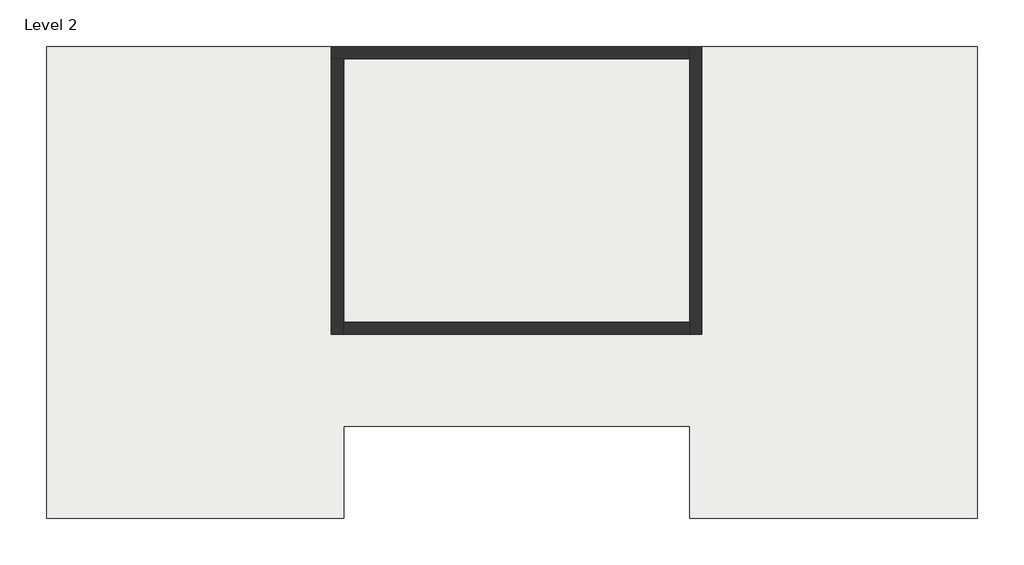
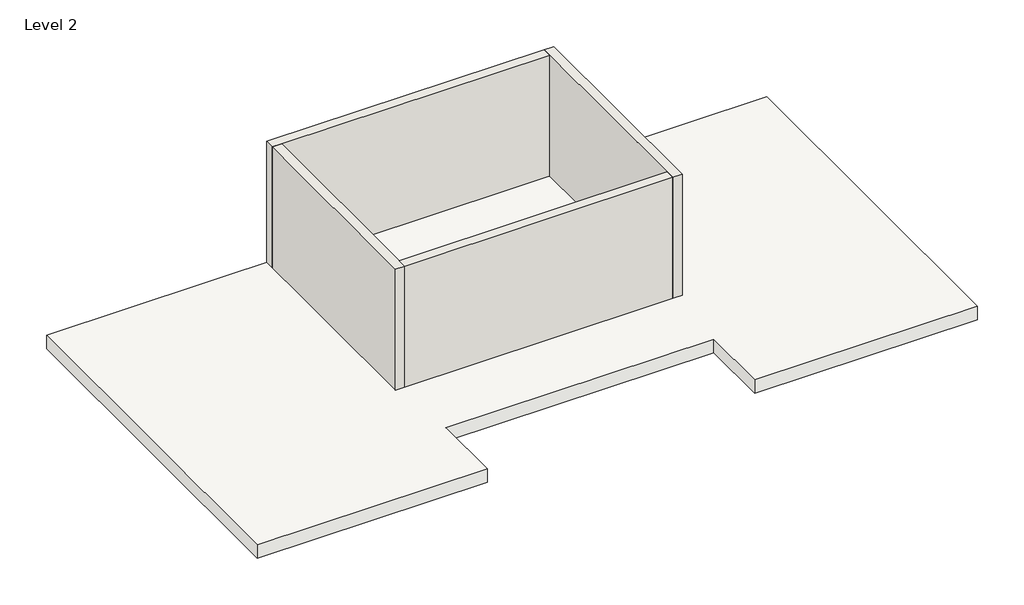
# One storey: 4 walls, 1 roof.
"""IFC4 building model written with IfcOpenShell, lengths in millimetres."""

import ifcopenshell
import ifcopenshell.guid

model = None  # the IFC model being written
_history = None  # IfcOwnerHistory: only IFC2X3 demands one
_inside = {}  # id of a spatial element -> (the spatial element, [elements in it])
_under = {}  # id of a project, library or spatial element -> (it, [spatial elements below it])
_declared = {}  # id of a project -> (the project, [libraries it declares])
_typed = {}  # id of a type object -> (the type object, [elements of that type])
_made_of = {}  # id of a material, layer set ... -> (it, [elements and type objects made of it])


def new_model(schema):
    """Start an empty IFC model of exactly this schema.

    Asked for "IFC4X3", IfcOpenShell would pick the latest addendum, in which some entities
    have other attributes; the version numbers below select the first issue.
    IFC2X3 requires an IfcOwnerHistory on every rooted entity: one is made here for all.
    """
    global model, _history
    if schema == "IFC4X3":
        model = ifcopenshell.file(schema_version=(4, 3, 0, 0))
    else:
        model = ifcopenshell.file(schema=schema)
    _inside.clear()
    _under.clear()
    _declared.clear()
    _typed.clear()
    _made_of.clear()
    _history = None
    if model.schema == "IFC2X3":
        org = make("IfcOrganization", Name="unknown")
        user = make(
            "IfcPersonAndOrganization",
            ThePerson=make("IfcPerson", FamilyName="unknown"),
            TheOrganization=org,
        )
        app = make(
            "IfcApplication",
            ApplicationDeveloper=org,
            Version="unknown",
            ApplicationFullName="unknown",
            ApplicationIdentifier="unknown",
        )
        _history = make(
            "IfcOwnerHistory",
            OwningUser=user,
            OwningApplication=app,
            ChangeAction="ADDED",
            CreationDate=0,
        )
    return model


def make(cls, **values):
    """One entity of the class cls with the attributes given. An attribute that is None is left unset."""
    return model.create_entity(
        cls, **{name: value for name, value in values.items() if value is not None}
    )


def rooted(cls, **values):
    """An entity with a GlobalId (a new one), such as an element, a storey or a relation."""
    return make(cls, GlobalId=ifcopenshell.guid.new(), OwnerHistory=_history, **values)


def si_unit(unit_type, name, prefix=None):
    """IfcSIUnit, for example si_unit("LENGTHUNIT", "METRE", prefix="MILLI")."""
    return make("IfcSIUnit", UnitType=unit_type, Prefix=prefix, Name=name)


def assignment(units):
    """IfcUnitAssignment: the units of a project."""
    return None if units is None else make("IfcUnitAssignment", Units=units)


def point(xyz):
    """IfcCartesianPoint."""
    return None if xyz is None else make("IfcCartesianPoint", Coordinates=xyz)


def direction(xyz):
    """IfcDirection."""
    return None if xyz is None else make("IfcDirection", DirectionRatios=xyz)


def frame(location, z_axis=None, x_axis=None):
    """IfcAxis2Placement3D, a coordinate frame: its origin and axes. An axis left out is left unset."""
    return make(
        "IfcAxis2Placement3D",
        Location=point(location),
        Axis=direction(z_axis),
        RefDirection=direction(x_axis),
    )


def origin():
    """The frame at (0, 0, 0) with its axes left unset."""
    return frame((0.0, 0.0, 0.0))


def place(relative_to, where):
    """IfcLocalPlacement: puts the frame where relative to a parent placement (None: the world)."""
    return make(
        "IfcLocalPlacement", PlacementRelTo=relative_to, RelativePlacement=where
    )


def context(
    kind, dimensions, precision=None, world=None, true_north=None, identifier=None
):
    """IfcGeometricRepresentationContext, for example the 3D "Model" context."""
    return make(
        "IfcGeometricRepresentationContext",
        ContextIdentifier=identifier,
        ContextType=kind,
        CoordinateSpaceDimension=dimensions,
        Precision=precision,
        WorldCoordinateSystem=world,
        TrueNorth=true_north,
    )


def project(units=None, contexts=None):
    """IfcProject with its units and contexts."""
    return rooted(
        "IfcProject",
        Name="project",
        RepresentationContexts=contexts,
        UnitsInContext=assignment(units),
    )


def spatial(cls, under=None, at=None, **own):
    """A site, building, storey or space (cls), placed at a placement, below another one or the project."""
    s = rooted(cls, ObjectPlacement=at, **own)
    if under is not None:
        _under.setdefault(under.id(), (under, []))[1].append(s)
    return s


def polyline(points):
    """IfcPolyline through the points."""
    return make("IfcPolyline", Points=[point(p) for p in points])


def outline(outer, holes=None, kind="AREA"):
    """IfcArbitraryClosedProfileDef: a profile drawn as a closed curve; with holes, ...WithVoids."""
    if holes is None:
        return make("IfcArbitraryClosedProfileDef", ProfileType=kind, OuterCurve=outer)
    return make(
        "IfcArbitraryProfileDefWithVoids",
        ProfileType=kind,
        OuterCurve=outer,
        InnerCurves=holes,
    )


def extrude(swept, where, along, depth):
    """IfcExtrudedAreaSolid: the profile swept, set in the frame where, extruded along a direction by depth."""
    return make(
        "IfcExtrudedAreaSolid",
        SweptArea=swept,
        Position=where,
        ExtrudedDirection=direction(along),
        Depth=depth,
    )


def faces_of(points, faces, orient=None, outer=None):
    """IfcFace entities. A face is a list of loops; a loop is a list of indices into points, from 0.

    orient and outer hold one flag for each loop. By default every Orientation is true, the
    first loop of a face is its IfcFaceOuterBound and the others are IfcFaceBound.
    """
    made = []
    for i, loops in enumerate(faces):
        bounds = []
        for j, loop in enumerate(loops):
            is_outer = j == 0 if outer is None else outer[i][j]
            bounds.append(
                make(
                    "IfcFaceOuterBound" if is_outer else "IfcFaceBound",
                    Bound=make("IfcPolyLoop", Polygon=[points[k] for k in loop]),
                    Orientation=True if orient is None else orient[i][j],
                )
            )
        made.append(make("IfcFace", Bounds=bounds))
    return made


def faceted_brep(points, faces, orient=None, outer=None, voids=None):
    """IfcFacetedBrep: a solid bounded by flat faces; with voids (closed shells), ...WithVoids."""
    shared = [point(p) for p in points]
    hull = make("IfcClosedShell", CfsFaces=faces_of(shared, faces, orient, outer))
    if voids is None:
        return make("IfcFacetedBrep", Outer=hull)
    return make(
        "IfcFacetedBrepWithVoids",
        Outer=hull,
        Voids=[
            make(cls, CfsFaces=faces_of(shared, fs, o, b)) for cls, fs, o, b in voids
        ],
    )


def shape(context_of_items, identifier, shape_type, items):
    """IfcShapeRepresentation: the items that make up one representation, for example the "Body"."""
    return make(
        "IfcShapeRepresentation",
        ContextOfItems=context_of_items,
        RepresentationIdentifier=identifier,
        RepresentationType=shape_type,
        Items=items,
    )


def made_of(thing, what):
    """Note that an element or type object is made of a material, layer set ...; save() writes the relation."""
    if what is not None:
        _made_of.setdefault(what.id(), (what, []))[1].append(thing)
    return thing


def element(
    cls,
    number,
    at=None,
    inside=None,
    cuts=None,
    type_object=None,
    material=None,
    context=None,
    identifier="Body",
    shape_type=None,
    held_by="IfcProductDefinitionShape",
    body=None,
    shapes=None,
    **own,
):
    """One element of the class cls, such as IfcWall. Its Tag is "e" and its number.

    at: its placement. inside: the storey or other place that contains it. cuts: it is an
    opening in that element (IfcRelVoidsElement). A single representation is given by context,
    identifier, shape_type and body (its items); several are given by shapes. held_by: the class
    of the entity that holds the representations. save() writes the other relations.
    """
    e = rooted(cls, Tag="e%d" % number, ObjectPlacement=at, **own)
    if body is not None:
        shapes = [shape(context, identifier, shape_type, body)]
    if shapes is not None:
        e.Representation = make(held_by, Representations=shapes)
    if inside is not None:
        _inside.setdefault(inside.id(), (inside, []))[1].append(e)
    if cuts is not None:
        rooted(
            "IfcRelVoidsElement", RelatingBuildingElement=cuts, RelatedOpeningElement=e
        )
    if type_object is not None:
        _typed.setdefault(type_object.id(), (type_object, []))[1].append(e)
    return made_of(e, material)


def aggregate(whole, parts):
    """IfcRelAggregates: a whole, such as a stair, and the parts it consists of."""
    return rooted("IfcRelAggregates", RelatingObject=whole, RelatedObjects=parts)


def save(model, path):
    """Write the relations noted so far, then the file.

    IfcRelAggregates (storeys below a building ...), IfcRelContainedInSpatialStructure (elements
    in a storey), IfcRelDefinesByType, IfcRelAssociatesMaterial and IfcRelDeclares: one each for
    every whole, place, type object, material and project.
    """
    for whole, parts in _under.values():
        aggregate(whole, parts)
    for where, things in _inside.values():
        rooted(
            "IfcRelContainedInSpatialStructure",
            RelatedElements=things,
            RelatingStructure=where,
        )
    for kind, things in _typed.values():
        rooted("IfcRelDefinesByType", RelatedObjects=things, RelatingType=kind)
    for what, things in _made_of.values():
        rooted("IfcRelAssociatesMaterial", RelatedObjects=things, RelatingMaterial=what)
    for by, libraries in _declared.values():
        rooted("IfcRelDeclares", RelatingContext=by, RelatedDefinitions=libraries)
    model.write(path)


model = new_model("IFC4")

# Units and contexts
model_context = context("Model", 3, world=origin())
ifc_project = project(units=[si_unit("LENGTHUNIT", "METRE", prefix="MILLI")], contexts=[model_context])

# Site, building, storey
site = spatial("IfcSite", under=ifc_project)
building = spatial("IfcBuilding", under=site)
storey = spatial("IfcBuildingStorey", under=building, Name="Level 2", Elevation=3048.0)

# Roof
placement = place(None, origin())
element("IfcRoof", 1, ObjectType="Generic - 12\"", at=placement, inside=storey, context=model_context, shape_type="SweptSolid", body=[
    extrude(outline(polyline([(-11961.1815431, 2122.9542041), (-11961.1815431, 9946.1542041), (3482.0184569, 9946.1542041), (3482.0184569, 2122.9542041), (-1293.1815431, 2122.9542041), (-1293.1815431, 3646.9542041), (-7033.5815431, 3646.9542041), (-7033.5815431, 2122.9542041), (-11961.1815431, 2122.9542041)])), frame((0.0, 0.0, 3048.0), z_axis=(0.0, 0.0, 1.0), x_axis=(1.0, 0.0, 0.0)), (0.0, 0.0, 1.0), 304.8),
])

# Walls
element("IfcWall", 2, ObjectType="Generic - 8\"", at=placement, inside=storey, context=model_context, shape_type="Brep", body=[
    faceted_brep([(-1089.9815431, 5170.9542041, 3352.8), (-1089.9815431, 9946.1542041, 3352.8), (-1089.9815431, 9946.1542041, 6096.0), (-1089.9815431, 5170.9542041, 6096.0), (-1293.1815431, 5170.9542041, 3352.8), (-1293.1815431, 5170.9542041, 6096.0), (-1293.1815431, 5374.1542041, 6096.0), (-1293.1815431, 9742.9542041, 6096.0), (-1293.1815431, 9946.1542041, 6096.0), (-1293.1815431, 9946.1542041, 3352.8), (-1293.1815431, 9742.9542041, 3352.8), (-1293.1815431, 5374.1542041, 3352.8)], [[[0, 1, 2, 3]], [[4, 5, 6, 7, 8, 9, 10, 11]], [[1, 0, 4, 11, 10, 9]], [[2, 1, 9, 8]], [[0, 3, 5, 4]], [[3, 2, 8, 7, 6, 5]]]),
])
element("IfcWall", 3, ObjectType="Generic - 8\"", at=placement, inside=storey, context=model_context, shape_type="Brep", body=[
    faceted_brep([(-1293.1815431, 9946.1542041, 3352.8), (-7236.7815431, 9946.1542041, 3352.8), (-7236.7815431, 9946.1542041, 6096.0), (-1293.1815431, 9946.1542041, 6096.0), (-1293.1815431, 9742.9542041, 3352.8), (-1293.1815431, 9742.9542041, 6096.0), (-7033.5815431, 9742.9542041, 6096.0), (-7236.7815431, 9742.9542041, 6096.0), (-7236.7815431, 9742.9542041, 3352.8), (-7033.5815431, 9742.9542041, 3352.8)], [[[0, 1, 2, 3]], [[4, 5, 6, 7, 8, 9]], [[1, 0, 4, 9, 8]], [[2, 1, 8, 7]], [[0, 3, 5, 4]], [[3, 2, 7, 6, 5]]]),
])
element("IfcWall", 4, ObjectType="Generic - 8\"", at=placement, inside=storey, context=model_context, shape_type="Brep", body=[
    faceted_brep([(-7236.7815431, 9742.9542041, 3352.8), (-7236.7815431, 5170.9542041, 3352.8), (-7236.7815431, 5170.9542041, 6096.0), (-7236.7815431, 9742.9542041, 6096.0), (-7033.5815431, 9742.9542041, 3352.8), (-7033.5815431, 9742.9542041, 6096.0), (-7033.5815431, 5374.1542041, 6096.0), (-7033.5815431, 5170.9542041, 6096.0), (-7033.5815431, 5170.9542041, 3352.8), (-7033.5815431, 5374.1542041, 3352.8)], [[[0, 1, 2, 3]], [[4, 5, 6, 7, 8, 9]], [[1, 0, 4, 9, 8]], [[2, 1, 8, 7]], [[0, 3, 5, 4]], [[3, 2, 7, 6, 5]]]),
])
element("IfcWall", 5, ObjectType="Generic - 8\"", at=placement, inside=storey, context=model_context, shape_type="SweptSolid", body=[
    extrude(outline(polyline([(-1293.1815431, 5170.9542041), (-7033.5815431, 5170.9542041), (-7033.5815431, 5374.1542041), (-1293.1815431, 5374.1542041), (-1293.1815431, 5170.9542041)])), frame((0.0, 0.0, 3352.8), z_axis=(0.0, 0.0, 1.0), x_axis=(1.0, 0.0, 0.0)), (0.0, 0.0, 1.0), 2743.2),
])

save(model, "model.ifc")
